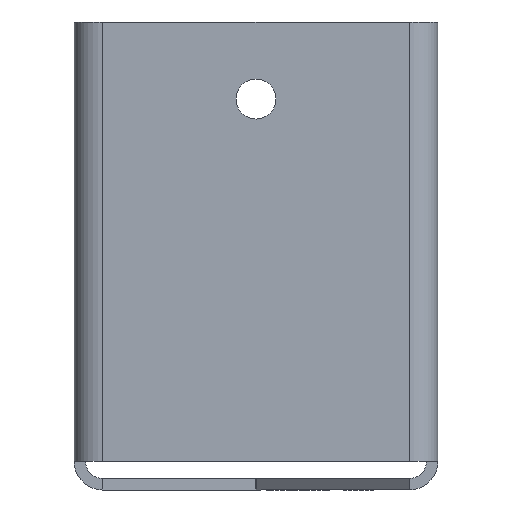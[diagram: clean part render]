
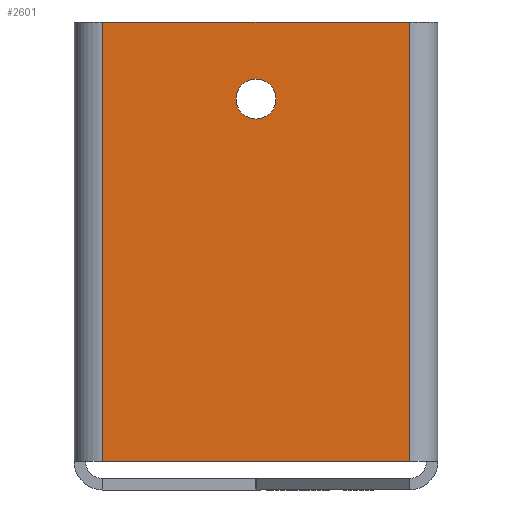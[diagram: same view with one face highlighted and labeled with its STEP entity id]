
A CAD part, front view. The second image highlights one B-rep face of the part: STEP entity #2601.
In plain terms, the highlighted planar face has unit normal (0, -1, 0).
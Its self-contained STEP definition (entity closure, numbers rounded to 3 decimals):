
#48 = DIRECTION ( 'NONE',  ( 1., 0., 0. ) ) ;
#71 = ORIENTED_EDGE ( 'NONE', *, *, #197, .T. ) ;
#136 = FACE_BOUND ( 'NONE', #1115, .T. ) ;
#140 = DIRECTION ( 'NONE',  ( 0., 1., 0. ) ) ;
#197 = EDGE_CURVE ( 'NONE', #351, #986, #1275, .T. ) ;
#217 = ORIENTED_EDGE ( 'NONE', *, *, #1784, .F. ) ;
#239 = EDGE_CURVE ( 'NONE', #395, #2545, #261, .T. ) ;
#261 = LINE ( 'NONE', #1253, #3091 ) ;
#288 = DIRECTION ( 'NONE',  ( 0., -1., 0. ) ) ;
#351 = VERTEX_POINT ( 'NONE', #2425 ) ;
#378 = CARTESIAN_POINT ( 'NONE',  ( 163.142, 0., 40. ) ) ;
#395 = VERTEX_POINT ( 'NONE', #1365 ) ;
#438 = CIRCLE ( 'NONE', #1140, 3.5 ) ;
#447 = LINE ( 'NONE', #2547, #1371 ) ;
#694 = VECTOR ( 'NONE', #1583, 1000. ) ;
#741 = LINE ( 'NONE', #1610, #2071 ) ;
#782 = CARTESIAN_POINT ( 'NONE',  ( 163.142, 0., 0. ) ) ;
#790 = CARTESIAN_POINT ( 'NONE',  ( 0., 0., 0. ) ) ;
#808 = AXIS2_PLACEMENT_3D ( 'NONE', #1219, #2551, #1498 ) ;
#938 = EDGE_CURVE ( 'NONE', #999, #1875, #741, .T. ) ;
#960 = DIRECTION ( 'NONE',  ( -1., 0., 0. ) ) ;
#986 = VERTEX_POINT ( 'NONE', #1404 ) ;
#999 = VERTEX_POINT ( 'NONE', #378 ) ;
#1021 = DIRECTION ( 'NONE',  ( 0., 0., -1. ) ) ;
#1115 = EDGE_LOOP ( 'NONE', ( #71, #1933 ) ) ;
#1140 = AXIS2_PLACEMENT_3D ( 'NONE', #1394, #140, #2456 ) ;
#1219 = CARTESIAN_POINT ( 'NONE',  ( 190., 0., 26.5 ) ) ;
#1253 = CARTESIAN_POINT ( 'NONE',  ( 240., 0., -37. ) ) ;
#1275 = CIRCLE ( 'NONE', #808, 3.5 ) ;
#1296 = LINE ( 'NONE', #782, #694 ) ;
#1338 = EDGE_CURVE ( 'NONE', #999, #2545, #1296, .T. ) ;
#1365 = CARTESIAN_POINT ( 'NONE',  ( 216.858, 0., -37. ) ) ;
#1371 = VECTOR ( 'NONE', #1021, 1000. ) ;
#1394 = CARTESIAN_POINT ( 'NONE',  ( 190., 0., 26.5 ) ) ;
#1404 = CARTESIAN_POINT ( 'NONE',  ( 190., 0., 23. ) ) ;
#1405 = ORIENTED_EDGE ( 'NONE', *, *, #1338, .T. ) ;
#1498 = DIRECTION ( 'NONE',  ( 0., 0., 1. ) ) ;
#1522 = FACE_OUTER_BOUND ( 'NONE', #2565, .T. ) ;
#1583 = DIRECTION ( 'NONE',  ( 0., 0., -1. ) ) ;
#1610 = CARTESIAN_POINT ( 'NONE',  ( 0., 0., 40. ) ) ;
#1784 = EDGE_CURVE ( 'NONE', #1875, #395, #447, .T. ) ;
#1818 = CARTESIAN_POINT ( 'NONE',  ( 163.142, 0., -37. ) ) ;
#1875 = VERTEX_POINT ( 'NONE', #2083 ) ;
#1933 = ORIENTED_EDGE ( 'NONE', *, *, #2760, .T. ) ;
#2067 = DIRECTION ( 'NONE',  ( 0., 0., -1. ) ) ;
#2071 = VECTOR ( 'NONE', #48, 1000. ) ;
#2076 = ORIENTED_EDGE ( 'NONE', *, *, #239, .F. ) ;
#2083 = CARTESIAN_POINT ( 'NONE',  ( 216.858, 0., 40. ) ) ;
#2425 = CARTESIAN_POINT ( 'NONE',  ( 190., 0., 30. ) ) ;
#2456 = DIRECTION ( 'NONE',  ( 0., 0., 1. ) ) ;
#2545 = VERTEX_POINT ( 'NONE', #1818 ) ;
#2547 = CARTESIAN_POINT ( 'NONE',  ( 216.858, 0., 0. ) ) ;
#2551 = DIRECTION ( 'NONE',  ( 0., 1., 0. ) ) ;
#2565 = EDGE_LOOP ( 'NONE', ( #217, #3038, #1405, #2076 ) ) ;
#2601 = ADVANCED_FACE ( 'NONE', ( #1522, #136 ), #3105, .T. ) ;
#2760 = EDGE_CURVE ( 'NONE', #986, #351, #438, .T. ) ;
#3038 = ORIENTED_EDGE ( 'NONE', *, *, #938, .F. ) ;
#3091 = VECTOR ( 'NONE', #960, 1000. ) ;
#3105 = PLANE ( 'NONE',  #3334 ) ;
#3334 = AXIS2_PLACEMENT_3D ( 'NONE', #790, #288, #2067 ) ;
